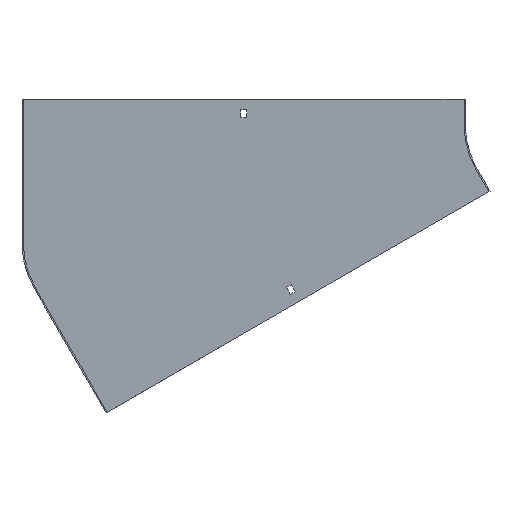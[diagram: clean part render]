
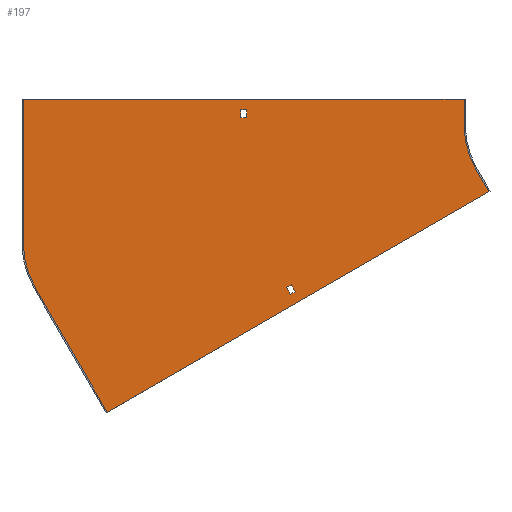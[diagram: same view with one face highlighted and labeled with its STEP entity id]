
A CAD part, front view. The second image highlights one B-rep face of the part: STEP entity #197.
In plain terms, the highlighted planar face has unit normal (0, -1, 0).
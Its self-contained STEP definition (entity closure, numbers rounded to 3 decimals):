
#3 = CARTESIAN_POINT ( 'NONE',  ( -100., -1.5, 30. ) ) ;
#28 = CARTESIAN_POINT ( 'NONE',  ( -70.304, -1.5, -75.231 ) ) ;
#29 = VERTEX_POINT ( 'NONE', #520 ) ;
#32 = VECTOR ( 'NONE', #55, 1000. ) ;
#41 = DIRECTION ( 'NONE',  ( 0., 0., -1. ) ) ;
#44 = VERTEX_POINT ( 'NONE', #716 ) ;
#50 = VECTOR ( 'NONE', #702, 1000. ) ;
#55 = DIRECTION ( 'NONE',  ( 1., 0., 0. ) ) ;
#62 = EDGE_CURVE ( 'NONE', #401, #169, #653, .T. ) ;
#65 = CARTESIAN_POINT ( 'NONE',  ( -303.156, -1.5, -185.419 ) ) ;
#67 = EDGE_CURVE ( 'NONE', #44, #682, #303, .T. ) ;
#69 = CARTESIAN_POINT ( 'NONE',  ( 0., -1.5, 18. ) ) ;
#76 = LINE ( 'NONE', #147, #232 ) ;
#82 = EDGE_CURVE ( 'NONE', #169, #29, #240, .T. ) ;
#89 = LINE ( 'NONE', #435, #489 ) ;
#91 = ORIENTED_EDGE ( 'NONE', *, *, #375, .F. ) ;
#97 = CARTESIAN_POINT ( 'NONE',  ( 4.5, -1.5, -7.794 ) ) ;
#108 = CARTESIAN_POINT ( 'NONE',  ( 0., -1.5, 9. ) ) ;
#125 = VECTOR ( 'NONE', #571, 1000. ) ;
#128 = CARTESIAN_POINT ( 'NONE',  ( 0., -1.5, 0. ) ) ;
#147 = CARTESIAN_POINT ( 'NONE',  ( -100., -1.5, 30. ) ) ;
#155 = CARTESIAN_POINT ( 'NONE',  ( -504., -1.5, -135.046 ) ) ;
#163 = CARTESIAN_POINT ( 'NONE',  ( -100., -1.5, 0. ) ) ;
#169 = VERTEX_POINT ( 'NONE', #746 ) ;
#179 = LINE ( 'NONE', #735, #541 ) ;
#186 = ORIENTED_EDGE ( 'NONE', *, *, #67, .F. ) ;
#190 = PLANE ( 'NONE',  #703 ) ;
#196 = VERTEX_POINT ( 'NONE', #812 ) ;
#197 = ADVANCED_FACE ( 'NONE', ( #199, #544, #678 ), #190, .T. ) ;
#198 = ORIENTED_EDGE ( 'NONE', *, *, #301, .F. ) ;
#199 = FACE_BOUND ( 'NONE', #277, .T. ) ;
#203 = VECTOR ( 'NONE', #740, 1000. ) ;
#204 = VERTEX_POINT ( 'NONE', #808 ) ;
#214 = ORIENTED_EDGE ( 'NONE', *, *, #484, .F. ) ;
#215 = DIRECTION ( 'NONE',  ( 0., 0., -1. ) ) ;
#219 = LINE ( 'NONE', #28, #562 ) ;
#220 = VECTOR ( 'NONE', #633, 1000. ) ;
#232 = VECTOR ( 'NONE', #215, 1000. ) ;
#240 = LINE ( 'NONE', #108, #203 ) ;
#249 = CARTESIAN_POINT ( 'NONE',  ( -348.75, -1.5, 0. ) ) ;
#253 = EDGE_CURVE ( 'NONE', #758, #196, #363, .T. ) ;
#261 = CARTESIAN_POINT ( 'NONE',  ( -604., -1.5, -135.046 ) ) ;
#262 = EDGE_CURVE ( 'NONE', #623, #481, #219, .T. ) ;
#266 = VERTEX_POINT ( 'NONE', #482 ) ;
#269 = LINE ( 'NONE', #261, #461 ) ;
#277 = EDGE_LOOP ( 'NONE', ( #186, #283, #289, #657 ) ) ;
#281 = ORIENTED_EDGE ( 'NONE', *, *, #782, .T. ) ;
#283 = ORIENTED_EDGE ( 'NONE', *, *, #843, .F. ) ;
#289 = ORIENTED_EDGE ( 'NONE', *, *, #253, .F. ) ;
#291 = CARTESIAN_POINT ( 'NONE',  ( -86.603, -1.5, -50. ) ) ;
#294 = LINE ( 'NONE', #97, #420 ) ;
#301 = EDGE_CURVE ( 'NONE', #481, #604, #89, .T. ) ;
#303 = LINE ( 'NONE', #312, #376 ) ;
#304 = CARTESIAN_POINT ( 'NONE',  ( -297.526, -1.5, -182.169 ) ) ;
#312 = CARTESIAN_POINT ( 'NONE',  ( -302.026, -1.5, -174.375 ) ) ;
#313 = CIRCLE ( 'NONE', #737, 100. ) ;
#315 = CARTESIAN_POINT ( 'NONE',  ( 0., -1.5, 0. ) ) ;
#326 = ORIENTED_EDGE ( 'NONE', *, *, #522, .F. ) ;
#330 = EDGE_CURVE ( 'NONE', #770, #835, #76, .T. ) ;
#335 = ORIENTED_EDGE ( 'NONE', *, *, #587, .F. ) ;
#352 = DIRECTION ( 'NONE',  ( 0., 1., 0. ) ) ;
#355 = ORIENTED_EDGE ( 'NONE', *, *, #262, .F. ) ;
#363 = LINE ( 'NONE', #479, #220 ) ;
#364 = CARTESIAN_POINT ( 'NONE',  ( -71.603, -1.5, -75.981 ) ) ;
#365 = VECTOR ( 'NONE', #818, 1000. ) ;
#375 = EDGE_CURVE ( 'NONE', #266, #623, #427, .T. ) ;
#376 = VECTOR ( 'NONE', #643, 1000. ) ;
#384 = ORIENTED_EDGE ( 'NONE', *, *, #468, .T. ) ;
#388 = DIRECTION ( 'NONE',  ( 1., 0., 0. ) ) ;
#393 = LINE ( 'NONE', #69, #32 ) ;
#401 = VERTEX_POINT ( 'NONE', #826 ) ;
#409 = ORIENTED_EDGE ( 'NONE', *, *, #62, .T. ) ;
#410 = DIRECTION ( 'NONE',  ( 0., -1., 0. ) ) ;
#420 = VECTOR ( 'NONE', #572, 1000. ) ;
#427 = LINE ( 'NONE', #291, #50 ) ;
#430 = ORIENTED_EDGE ( 'NONE', *, *, #330, .F. ) ;
#435 = CARTESIAN_POINT ( 'NONE',  ( -508.079, -1.5, -327.981 ) ) ;
#461 = VECTOR ( 'NONE', #543, 1000. ) ;
#468 = EDGE_CURVE ( 'NONE', #29, #204, #600, .T. ) ;
#478 = CARTESIAN_POINT ( 'NONE',  ( -508.079, -1.5, -327.981 ) ) ;
#479 = CARTESIAN_POINT ( 'NONE',  ( -307.656, -1.5, -177.625 ) ) ;
#480 = AXIS2_PLACEMENT_3D ( 'NONE', #315, #640, #41 ) ;
#481 = VERTEX_POINT ( 'NONE', #478 ) ;
#482 = CARTESIAN_POINT ( 'NONE',  ( -86.603, -1.5, -50. ) ) ;
#484 = EDGE_CURVE ( 'NONE', #753, #514, #269, .T. ) ;
#489 = VECTOR ( 'NONE', #493, 1000. ) ;
#493 = DIRECTION ( 'NONE',  ( -0.5, 0., 0.866 ) ) ;
#494 = CIRCLE ( 'NONE', #480, 100. ) ;
#514 = VERTEX_POINT ( 'NONE', #535 ) ;
#520 = CARTESIAN_POINT ( 'NONE',  ( -355.25, -1.5, 9. ) ) ;
#522 = EDGE_CURVE ( 'NONE', #514, #770, #179, .T. ) ;
#531 = DIRECTION ( 'NONE',  ( 0., 0., -1. ) ) ;
#535 = CARTESIAN_POINT ( 'NONE',  ( -604., -1.5, 30. ) ) ;
#538 = CARTESIAN_POINT ( 'NONE',  ( 9., -1.5, -15.588 ) ) ;
#541 = VECTOR ( 'NONE', #388, 1000. ) ;
#543 = DIRECTION ( 'NONE',  ( 0., 0., 1. ) ) ;
#544 = FACE_OUTER_BOUND ( 'NONE', #652, .T. ) ;
#561 = DIRECTION ( 'NONE',  ( -0.866, 0., -0.5 ) ) ;
#562 = VECTOR ( 'NONE', #561, 1000. ) ;
#571 = DIRECTION ( 'NONE',  ( 0., 0., -1. ) ) ;
#572 = DIRECTION ( 'NONE',  ( -0.866, 0., -0.5 ) ) ;
#576 = CARTESIAN_POINT ( 'NONE',  ( -604., -1.5, -135.046 ) ) ;
#577 = EDGE_CURVE ( 'NONE', #604, #753, #313, .T. ) ;
#587 = EDGE_CURVE ( 'NONE', #835, #266, #494, .T. ) ;
#600 = LINE ( 'NONE', #608, #365 ) ;
#604 = VERTEX_POINT ( 'NONE', #794 ) ;
#607 = DIRECTION ( 'NONE',  ( 0.866, 0., 0.5 ) ) ;
#608 = CARTESIAN_POINT ( 'NONE',  ( -355.25, -1.5, 0. ) ) ;
#622 = DIRECTION ( 'NONE',  ( 0., 0., -1. ) ) ;
#623 = VERTEX_POINT ( 'NONE', #364 ) ;
#633 = DIRECTION ( 'NONE',  ( 0.5, 0., -0.866 ) ) ;
#640 = DIRECTION ( 'NONE',  ( 0., -1., 0. ) ) ;
#643 = DIRECTION ( 'NONE',  ( -0.5, 0., 0.866 ) ) ;
#652 = EDGE_LOOP ( 'NONE', ( #326, #214, #815, #198, #355, #91, #335, #430 ) ) ;
#653 = LINE ( 'NONE', #249, #125 ) ;
#657 = ORIENTED_EDGE ( 'NONE', *, *, #688, .F. ) ;
#678 = FACE_BOUND ( 'NONE', #739, .T. ) ;
#682 = VERTEX_POINT ( 'NONE', #304 ) ;
#688 = EDGE_CURVE ( 'NONE', #682, #758, #294, .T. ) ;
#702 = DIRECTION ( 'NONE',  ( 0.5, 0., -0.866 ) ) ;
#703 = AXIS2_PLACEMENT_3D ( 'NONE', #128, #410, #531 ) ;
#716 = CARTESIAN_POINT ( 'NONE',  ( -293.026, -1.5, -189.963 ) ) ;
#735 = CARTESIAN_POINT ( 'NONE',  ( -605.5, -1.5, 30. ) ) ;
#737 = AXIS2_PLACEMENT_3D ( 'NONE', #155, #352, #622 ) ;
#739 = EDGE_LOOP ( 'NONE', ( #281, #409, #810, #384 ) ) ;
#740 = DIRECTION ( 'NONE',  ( -1., 0., 0. ) ) ;
#746 = CARTESIAN_POINT ( 'NONE',  ( -348.75, -1.5, 9. ) ) ;
#753 = VERTEX_POINT ( 'NONE', #576 ) ;
#758 = VERTEX_POINT ( 'NONE', #65 ) ;
#762 = LINE ( 'NONE', #538, #777 ) ;
#770 = VERTEX_POINT ( 'NONE', #3 ) ;
#777 = VECTOR ( 'NONE', #607, 1000. ) ;
#782 = EDGE_CURVE ( 'NONE', #204, #401, #393, .T. ) ;
#794 = CARTESIAN_POINT ( 'NONE',  ( -590.603, -1.5, -185.046 ) ) ;
#808 = CARTESIAN_POINT ( 'NONE',  ( -355.25, -1.5, 18. ) ) ;
#810 = ORIENTED_EDGE ( 'NONE', *, *, #82, .T. ) ;
#812 = CARTESIAN_POINT ( 'NONE',  ( -298.656, -1.5, -193.213 ) ) ;
#815 = ORIENTED_EDGE ( 'NONE', *, *, #577, .F. ) ;
#818 = DIRECTION ( 'NONE',  ( 0., 0., 1. ) ) ;
#826 = CARTESIAN_POINT ( 'NONE',  ( -348.75, -1.5, 18. ) ) ;
#835 = VERTEX_POINT ( 'NONE', #163 ) ;
#843 = EDGE_CURVE ( 'NONE', #196, #44, #762, .T. ) ;
